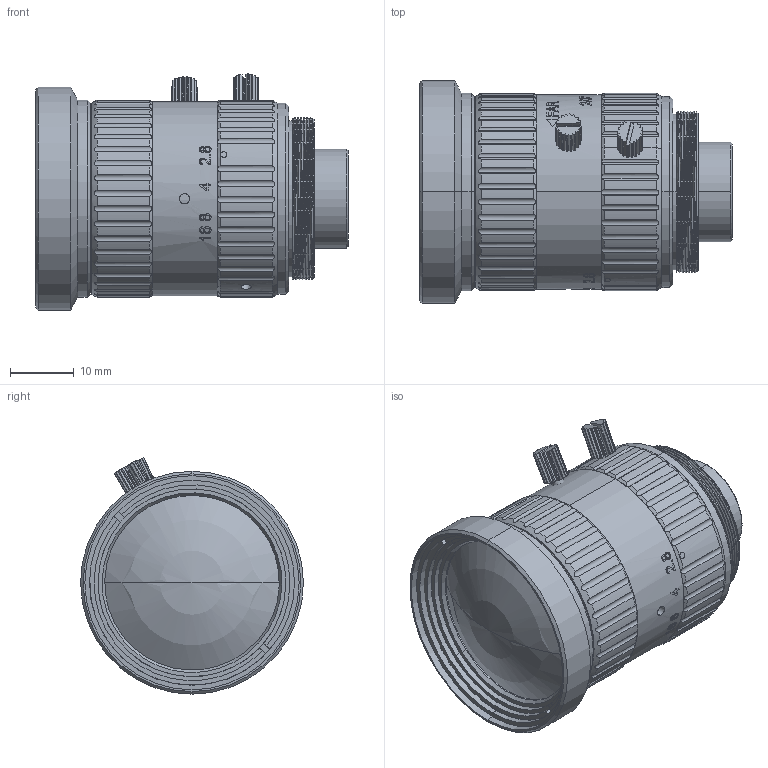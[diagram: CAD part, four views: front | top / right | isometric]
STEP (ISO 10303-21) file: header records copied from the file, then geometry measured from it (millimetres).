
FILE_DESCRIPTION (( 'STEP AP203' ), '1' );
FILE_NAME ('08mm蚾饜极.STEP', '2023-04-12T03:12:39', ( '' ), ( '' ), 'SwSTEP 2.0', 'SolidWorks 2020', '' );
FILE_SCHEMA (( 'CONFIG_CONTROL_DESIGN' ));
Length unit declared in the file: millimetre
Products named in the file (11): 08mm擄蝴遠; 08mmヶ噩芠; G10G11; 蹟隊; 08mm蚾饜极; 08mm翋噩芠; G1; 08mm嫖擊覃誹遠; 2瘍脣种; 08mmǰѹȦ; 08mm蟀諉釱
Assembly tree (13 placements, depth 2):
  08mm蚾饜极
    08mm嫖擊覃誹遠
    08mm擄蝴遠
    08mm蟀諉釱
    08mmヶ噩芠
    08mmǰѹȦ
    08mm翋噩芠
    蹟隊  x3
    G1
    G10G11
    2瘍脣种  x2
Bounding box: 49.14 x 35 x 37.12 mm (x, y, z)
Volume: 20722.8 mm3; surface area: 26373 mm2
Topology: 14 solids, 14 shells, 1000 faces, 2859 edges, 1959 vertices
Faces by surface type: cylinder 602, plane 228, cone 110, bspline 52, sphere 8
Entity records: 50854 total; most frequent: CARTESIAN_POINT 27672, ORIENTED_EDGE 5128, DIRECTION 4048, EDGE_CURVE 2564, VERTEX_POINT 1769, AXIS2_PLACEMENT_3D 1577, EDGE_LOOP 1015, ADVANCED_FACE 894
